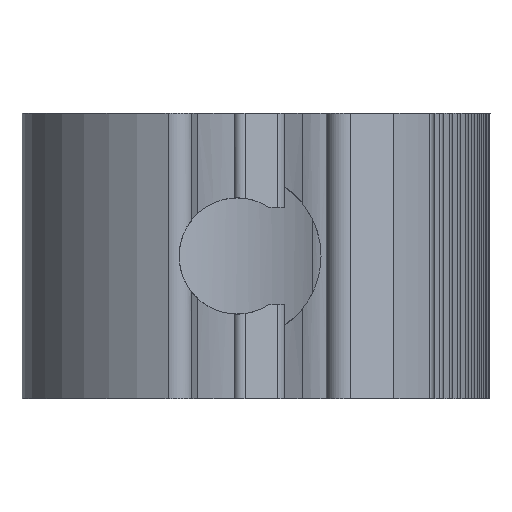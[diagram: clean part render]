
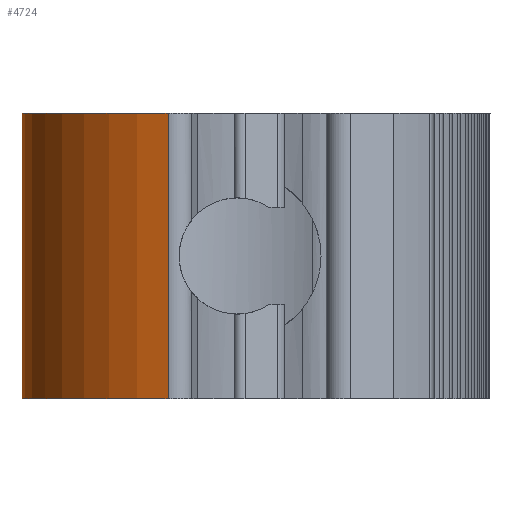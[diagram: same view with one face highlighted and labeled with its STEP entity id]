
A CAD part, left-side view. The second image highlights one B-rep face of the part: STEP entity #4724.
In plain terms, the highlighted cylindrical face has radius 29.429 mm (diameter 58.857 mm), a partial arc.
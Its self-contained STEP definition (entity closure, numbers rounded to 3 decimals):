
#925=CARTESIAN_POINT('',(-15.083,46.221,19.553));
#926=DIRECTION('',(0.,0.,-1.));
#927=DIRECTION('',(-0.947,0.321,0.));
#928=AXIS2_PLACEMENT_3D('',#925,#926,#927);
#1181=CARTESIAN_POINT('',(-15.083,46.221,-19.553));
#1182=DIRECTION('',(0.,0.,1.));
#1183=DIRECTION('',(0.,1.,0.));
#1184=AXIS2_PLACEMENT_3D('',#1181,#1182,#1183);
#2355=DIRECTION('',(0.,0.,1.));
#2356=VECTOR('',#2355,39.106);
#2357=CARTESIAN_POINT('',(-15.083,75.65,-19.553));
#2358=LINE('',#2357,#2356);
#2400=DIRECTION('',(0.,0.,1.));
#2401=VECTOR('',#2400,39.106);
#2402=CARTESIAN_POINT('',(-42.95,55.679,-19.553));
#2403=LINE('',#2402,#2401);
#2840=CARTESIAN_POINT('',(-15.083,75.65,-19.553));
#2841=VERTEX_POINT('',#2840);
#2842=CARTESIAN_POINT('',(-42.95,55.679,-19.553));
#2843=VERTEX_POINT('',#2842);
#3181=CARTESIAN_POINT('',(-42.95,55.679,19.553));
#3183=VERTEX_POINT('',#3181);
#3184=CARTESIAN_POINT('',(-15.083,75.65,19.553));
#3185=VERTEX_POINT('',#3184);
#4712=CARTESIAN_POINT('',(-15.083,46.221,-19.553));
#4713=DIRECTION('',(0.,0.,1.));
#4714=DIRECTION('',(1.,0.,0.));
#4715=AXIS2_PLACEMENT_3D('',#4712,#4713,#4714);
#4716=CYLINDRICAL_SURFACE('',#4715,29.429);
#4717=ORIENTED_EDGE('',*,*,#3607,.F.);
#4719=ORIENTED_EDGE('',*,*,#4718,.F.);
#4720=ORIENTED_EDGE('',*,*,#3712,.F.);
#4721=ORIENTED_EDGE('',*,*,#4705,.T.);
#4722=EDGE_LOOP('',(#4717,#4719,#4720,#4721));
#4723=FACE_OUTER_BOUND('',#4722,.F.);
#929=CIRCLE('',#928,29.429);
#1185=CIRCLE('',#1184,29.429);
#3607=EDGE_CURVE('',#3183,#3185,#929,.T.);
#3712=EDGE_CURVE('',#2841,#2843,#1185,.T.);
#4705=EDGE_CURVE('',#2841,#3185,#2358,.T.);
#4718=EDGE_CURVE('',#2843,#3183,#2403,.T.);
#4724=ADVANCED_FACE('',(#4723),#4716,.T.);
